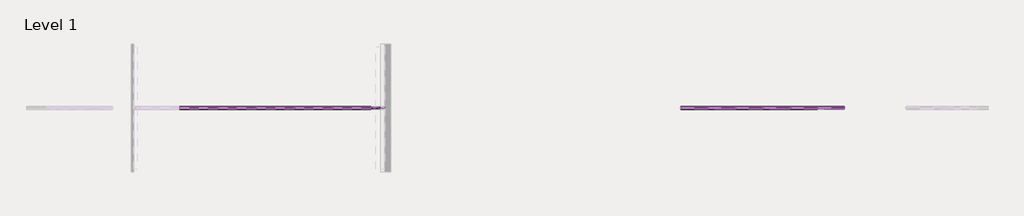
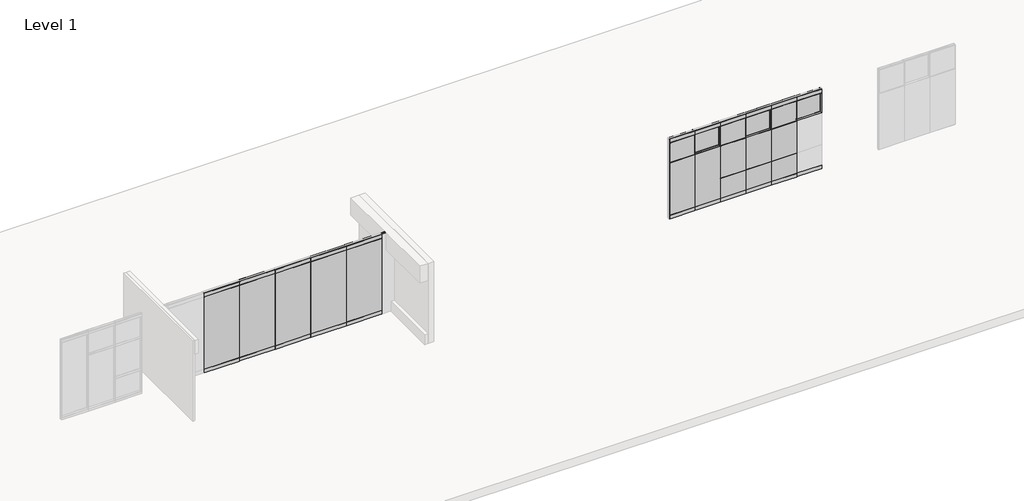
# One storey, part 13 of 22: 110 proxies.
"""IFC4 building model written with IfcOpenShell, lengths in millimetres."""

from ifc_helpers import new_model, si_unit, origin, place, context, project, spatial, transform, mapped, element, save
from components import fkc_e36d1c91, fkn_ecde4ead, fascia_teknion_ceiling_and_base_fpb1_f6fada93, fascia_teknion_ceiling_and_base_fpb1_13b4bfed, fascia_teknion_ceiling_and_base_fpb1_0bfeef01, fascia_teknion_ceiling_and_base_fpb1_b9f04170, fascia_teknion_ceiling_and_base_fpb1_707b8d37, fascia_teknion_ceiling_and_base_fpb1_816009f4, frame_teknion_horizontal_rail_5872ae1a, frame_teknion_horizontal_rail_46ee653b, frame_teknion_horizontal_rail_96f289ab, frame_teknion_horizontal_rail_2bcae702, full_84ced3e5, full_de6f7fca, glass_fascia_921fc641, glass_fascia_0a4ee349, glass_fascia_7fd7f416, glass_fascia_c5390191, working_wall_monolithic_level_i_0b7852cd, working_wall_monolithic_level_i_72bc8cad, working_wall_monolithic_level_i_0fd3c68e, level_ii_09c6d2e8, level_ii_d745e7d9, level_ii_52e50c64, segmented_monolithic_level_i_1ec0774b, segmented_monolithic_level_i_c740ac9f, segmented_monolithic_level_i_f7c86621, segmented_monolithic_level_i_c631dfd0

model = new_model("IFC4")

# Units and contexts
model_context = context("Model", 3, world=origin())
ifc_project = project(units=[si_unit("LENGTHUNIT", "METRE", prefix="MILLI")], contexts=[model_context])

# Site, building, storey
site = spatial("IfcSite", under=ifc_project)
building = spatial("IfcBuilding", under=site)
storey = spatial("IfcBuildingStorey", under=building, Name="Level 1", Elevation=0.0)

# Proxies
placement = place(None, origin())
fkc_shape = fkc_e36d1c91(model_context)
element("IfcBuildingElementProxy", 1, Name="Frame-Teknion-Altos-Base_Channel : FKC", ObjectType="Frame-Teknion-Altos-Base_Channel : FKC", at=placement, inside=storey, context=model_context, shape_type="MappedRepresentation", body=[
    mapped(fkc_shape, transform((11261.4815098, 1812.351065, 0.0), x_axis=(1.0, 0.0, 0.0), y_axis=(0.0, 1.0, 0.0), z_axis=(0.0, 0.0, 1.0))),
])
fkn_shape = fkn_ecde4ead(model_context)
element("IfcBuildingElementProxy", 2, Name="Frame-Teknion-Altos-Ceiling_Channel : FKN", ObjectType="Frame-Teknion-Altos-Ceiling_Channel : FKN", at=placement, inside=storey, context=model_context, shape_type="MappedRepresentation", body=[
    mapped(fkn_shape, transform((11172.5815098, 1812.351065, 3048.0), x_axis=(1.0, 0.0, 0.0), y_axis=(0.0, 1.0, 0.0), z_axis=(0.0, 0.0, 1.0))),
])
fascia_teknion_ceiling_and_base_fpb1_shape = fascia_teknion_ceiling_and_base_fpb1_f6fada93(model_context)
element("IfcBuildingElementProxy", 3, Name="Fascia-Teknion-Ceiling_and_Base : FPB1", ObjectType="Fascia-Teknion-Ceiling_and_Base : FPB1", at=placement, inside=storey, context=model_context, shape_type="MappedRepresentation", body=[
    mapped(fascia_teknion_ceiling_and_base_fpb1_shape, transform((5345.8115879, 1843.3402105, 15.875), x_axis=(1.0, 0.0, 0.0), y_axis=(0.0, 1.0, 0.0), z_axis=(0.0, 0.0, 1.0))),
])
element("IfcBuildingElementProxy", 4, Name="Fascia-Teknion-Ceiling_and_Base : FPB1", ObjectType="Fascia-Teknion-Ceiling_and_Base : FPB1", at=placement, inside=storey, context=model_context, shape_type="MappedRepresentation", body=[
    mapped(fascia_teknion_ceiling_and_base_fpb1_shape, transform((6622.1615879, 1843.3402105, 15.875), x_axis=(1.0, 0.0, 0.0), y_axis=(0.0, 1.0, 0.0), z_axis=(0.0, 0.0, 1.0))),
])
element("IfcBuildingElementProxy", 5, Name="Fascia-Teknion-Ceiling_and_Base : FPB1", ObjectType="Fascia-Teknion-Ceiling_and_Base : FPB1", at=placement, inside=storey, context=model_context, shape_type="MappedRepresentation", body=[
    mapped(fascia_teknion_ceiling_and_base_fpb1_shape, transform((7898.5115879, 1843.3402105, 15.875), x_axis=(1.0, 0.0, 0.0), y_axis=(0.0, 1.0, 0.0), z_axis=(0.0, 0.0, 1.0))),
])
element("IfcBuildingElementProxy", 6, Name="Fascia-Teknion-Ceiling_and_Base : FPB1", ObjectType="Fascia-Teknion-Ceiling_and_Base : FPB1", at=placement, inside=storey, context=model_context, shape_type="MappedRepresentation", body=[
    mapped(fascia_teknion_ceiling_and_base_fpb1_shape, transform((9174.8615879, 1843.3402105, 15.875), x_axis=(1.0, 0.0, 0.0), y_axis=(0.0, 1.0, 0.0), z_axis=(0.0, 0.0, 1.0))),
])
element("IfcBuildingElementProxy", 7, Name="Fascia-Teknion-Ceiling_and_Base : FPB1", ObjectType="Fascia-Teknion-Ceiling_and_Base : FPB1", at=placement, inside=storey, context=model_context, shape_type="MappedRepresentation", body=[
    mapped(fascia_teknion_ceiling_and_base_fpb1_shape, transform((10451.2115879, 1843.3402105, 15.875), x_axis=(1.0, 0.0, 0.0), y_axis=(0.0, 1.0, 0.0), z_axis=(0.0, 0.0, 1.0))),
])
fascia_teknion_ceiling_and_base_fpb1_2_shape = fascia_teknion_ceiling_and_base_fpb1_13b4bfed(model_context)
element("IfcBuildingElementProxy", 8, Name="Fascia-Teknion-Ceiling_and_Base : FPB1", ObjectType="Fascia-Teknion-Ceiling_and_Base : FPB1", at=placement, inside=storey, context=model_context, shape_type="MappedRepresentation", body=[
    mapped(fascia_teknion_ceiling_and_base_fpb1_2_shape, transform((5345.8115879, 1781.3642105, 15.875), x_axis=(1.0, 0.0, 0.0), y_axis=(0.0, 1.0, 0.0), z_axis=(0.0, 0.0, 1.0))),
])
element("IfcBuildingElementProxy", 9, Name="Fascia-Teknion-Ceiling_and_Base : FPB1", ObjectType="Fascia-Teknion-Ceiling_and_Base : FPB1", at=placement, inside=storey, context=model_context, shape_type="MappedRepresentation", body=[
    mapped(fascia_teknion_ceiling_and_base_fpb1_2_shape, transform((6622.1615879, 1781.3642105, 15.875), x_axis=(1.0, 0.0, 0.0), y_axis=(0.0, 1.0, 0.0), z_axis=(0.0, 0.0, 1.0))),
])
element("IfcBuildingElementProxy", 10, Name="Fascia-Teknion-Ceiling_and_Base : FPB1", ObjectType="Fascia-Teknion-Ceiling_and_Base : FPB1", at=placement, inside=storey, context=model_context, shape_type="MappedRepresentation", body=[
    mapped(fascia_teknion_ceiling_and_base_fpb1_2_shape, transform((7898.5115879, 1781.3642105, 15.875), x_axis=(1.0, 0.0, 0.0), y_axis=(0.0, 1.0, 0.0), z_axis=(0.0, 0.0, 1.0))),
])
element("IfcBuildingElementProxy", 11, Name="Fascia-Teknion-Ceiling_and_Base : FPB1", ObjectType="Fascia-Teknion-Ceiling_and_Base : FPB1", at=placement, inside=storey, context=model_context, shape_type="MappedRepresentation", body=[
    mapped(fascia_teknion_ceiling_and_base_fpb1_2_shape, transform((9174.8615879, 1781.3642105, 15.875), x_axis=(1.0, 0.0, 0.0), y_axis=(0.0, 1.0, 0.0), z_axis=(0.0, 0.0, 1.0))),
])
element("IfcBuildingElementProxy", 12, Name="Fascia-Teknion-Ceiling_and_Base : FPB1", ObjectType="Fascia-Teknion-Ceiling_and_Base : FPB1", at=placement, inside=storey, context=model_context, shape_type="MappedRepresentation", body=[
    mapped(fascia_teknion_ceiling_and_base_fpb1_2_shape, transform((10451.2115879, 1781.3642105, 15.875), x_axis=(1.0, 0.0, 0.0), y_axis=(0.0, 1.0, 0.0), z_axis=(0.0, 0.0, 1.0))),
])
fascia_teknion_ceiling_and_base_fpb1_3_shape = fascia_teknion_ceiling_and_base_fpb1_0bfeef01(model_context)
element("IfcBuildingElementProxy", 13, Name="Fascia-Teknion-Ceiling_and_Base : FPB1", ObjectType="Fascia-Teknion-Ceiling_and_Base : FPB1", at=placement, inside=storey, context=model_context, shape_type="MappedRepresentation", body=[
    mapped(fascia_teknion_ceiling_and_base_fpb1_3_shape, transform((21863.3908134, 1843.3402105, 15.875), x_axis=(1.0, 0.0, 0.0), y_axis=(0.0, 1.0, 0.0), z_axis=(0.0, 0.0, 1.0))),
])
element("IfcBuildingElementProxy", 14, Name="Fascia-Teknion-Ceiling_and_Base : FPB1", ObjectType="Fascia-Teknion-Ceiling_and_Base : FPB1", at=placement, inside=storey, context=model_context, shape_type="MappedRepresentation", body=[
    mapped(fascia_teknion_ceiling_and_base_fpb1_3_shape, transform((26421.4009696, 1843.3402105, 15.875), x_axis=(1.0, 0.0, 0.0), y_axis=(0.0, 1.0, 0.0), z_axis=(0.0, 0.0, 1.0))),
])
fascia_teknion_ceiling_and_base_fpb1_4_shape = fascia_teknion_ceiling_and_base_fpb1_b9f04170(model_context)
element("IfcBuildingElementProxy", 15, Name="Fascia-Teknion-Ceiling_and_Base : FPB1", ObjectType="Fascia-Teknion-Ceiling_and_Base : FPB1", at=placement, inside=storey, context=model_context, shape_type="MappedRepresentation", body=[
    mapped(fascia_teknion_ceiling_and_base_fpb1_4_shape, transform((21863.3908134, 1781.3642105, 15.875), x_axis=(1.0, 0.0, 0.0), y_axis=(0.0, 1.0, 0.0), z_axis=(0.0, 0.0, 1.0))),
])
element("IfcBuildingElementProxy", 16, Name="Fascia-Teknion-Ceiling_and_Base : FPB1", ObjectType="Fascia-Teknion-Ceiling_and_Base : FPB1", at=placement, inside=storey, context=model_context, shape_type="MappedRepresentation", body=[
    mapped(fascia_teknion_ceiling_and_base_fpb1_4_shape, transform((26421.4009696, 1781.3642105, 15.875), x_axis=(1.0, 0.0, 0.0), y_axis=(0.0, 1.0, 0.0), z_axis=(0.0, 0.0, 1.0))),
])
fascia_teknion_ceiling_and_base_fpb1_5_shape = fascia_teknion_ceiling_and_base_fpb1_707b8d37(model_context)
element("IfcBuildingElementProxy", 17, Name="Fascia-Teknion-Ceiling_and_Base : FPB1", ObjectType="Fascia-Teknion-Ceiling_and_Base : FPB1", at=placement, inside=storey, context=model_context, shape_type="MappedRepresentation", body=[
    mapped(fascia_teknion_ceiling_and_base_fpb1_5_shape, transform((24599.5958915, 1781.3642105, 15.875), x_axis=(1.0, 0.0, 0.0), y_axis=(0.0, 1.0, 0.0), z_axis=(0.0, 0.0, 1.0))),
])
element("IfcBuildingElementProxy", 18, Name="Fascia-Teknion-Ceiling_and_Base : FPB1", ObjectType="Fascia-Teknion-Ceiling_and_Base : FPB1", at=placement, inside=storey, context=model_context, shape_type="MappedRepresentation", body=[
    mapped(fascia_teknion_ceiling_and_base_fpb1_5_shape, transform((23685.1958915, 1781.3642105, 15.875), x_axis=(1.0, 0.0, 0.0), y_axis=(0.0, 1.0, 0.0), z_axis=(0.0, 0.0, 1.0))),
])
element("IfcBuildingElementProxy", 19, Name="Fascia-Teknion-Ceiling_and_Base : FPB1", ObjectType="Fascia-Teknion-Ceiling_and_Base : FPB1", at=placement, inside=storey, context=model_context, shape_type="MappedRepresentation", body=[
    mapped(fascia_teknion_ceiling_and_base_fpb1_5_shape, transform((22770.7958915, 1781.3642105, 15.875), x_axis=(1.0, 0.0, 0.0), y_axis=(0.0, 1.0, 0.0), z_axis=(0.0, 0.0, 1.0))),
])
element("IfcBuildingElementProxy", 20, Name="Fascia-Teknion-Ceiling_and_Base : FPB1", ObjectType="Fascia-Teknion-Ceiling_and_Base : FPB1", at=placement, inside=storey, context=model_context, shape_type="MappedRepresentation", body=[
    mapped(fascia_teknion_ceiling_and_base_fpb1_5_shape, transform((25513.9958915, 1781.3642105, 15.875), x_axis=(1.0, 0.0, 0.0), y_axis=(0.0, 1.0, 0.0), z_axis=(0.0, 0.0, 1.0))),
])
fascia_teknion_ceiling_and_base_fpb1_6_shape = fascia_teknion_ceiling_and_base_fpb1_816009f4(model_context)
element("IfcBuildingElementProxy", 21, Name="Fascia-Teknion-Ceiling_and_Base : FPB1", ObjectType="Fascia-Teknion-Ceiling_and_Base : FPB1", at=placement, inside=storey, context=model_context, shape_type="MappedRepresentation", body=[
    mapped(fascia_teknion_ceiling_and_base_fpb1_6_shape, transform((24599.5958915, 1843.3402105, 15.875), x_axis=(1.0, 0.0, 0.0), y_axis=(0.0, 1.0, 0.0), z_axis=(0.0, 0.0, 1.0))),
])
element("IfcBuildingElementProxy", 22, Name="Fascia-Teknion-Ceiling_and_Base : FPB1", ObjectType="Fascia-Teknion-Ceiling_and_Base : FPB1", at=placement, inside=storey, context=model_context, shape_type="MappedRepresentation", body=[
    mapped(fascia_teknion_ceiling_and_base_fpb1_6_shape, transform((23685.1958915, 1843.3402105, 15.875), x_axis=(1.0, 0.0, 0.0), y_axis=(0.0, 1.0, 0.0), z_axis=(0.0, 0.0, 1.0))),
])
element("IfcBuildingElementProxy", 23, Name="Fascia-Teknion-Ceiling_and_Base : FPB1", ObjectType="Fascia-Teknion-Ceiling_and_Base : FPB1", at=placement, inside=storey, context=model_context, shape_type="MappedRepresentation", body=[
    mapped(fascia_teknion_ceiling_and_base_fpb1_6_shape, transform((22770.7958915, 1843.3402105, 15.875), x_axis=(1.0, 0.0, 0.0), y_axis=(0.0, 1.0, 0.0), z_axis=(0.0, 0.0, 1.0))),
])
element("IfcBuildingElementProxy", 24, Name="Fascia-Teknion-Ceiling_and_Base : FPB1", ObjectType="Fascia-Teknion-Ceiling_and_Base : FPB1", at=placement, inside=storey, context=model_context, shape_type="MappedRepresentation", body=[
    mapped(fascia_teknion_ceiling_and_base_fpb1_6_shape, transform((25513.9958915, 1843.3402105, 15.875), x_axis=(1.0, 0.0, 0.0), y_axis=(0.0, 1.0, 0.0), z_axis=(0.0, 0.0, 1.0))),
])
element("IfcBuildingElementProxy", 25, Name="Fascia-Teknion-Ceiling_and_Base : FPC", ObjectType="Fascia-Teknion-Ceiling_and_Base : FPC", at=placement, inside=storey, context=model_context, shape_type="MappedRepresentation", body=[
    mapped(fascia_teknion_ceiling_and_base_fpb1_shape, transform((5345.8115879, 1843.3402105, 2900.045), x_axis=(1.0, 0.0, 0.0), y_axis=(0.0, 1.0, 0.0), z_axis=(0.0, 0.0, 1.0))),
])
element("IfcBuildingElementProxy", 26, Name="Fascia-Teknion-Ceiling_and_Base : FPC", ObjectType="Fascia-Teknion-Ceiling_and_Base : FPC", at=placement, inside=storey, context=model_context, shape_type="MappedRepresentation", body=[
    mapped(fascia_teknion_ceiling_and_base_fpb1_shape, transform((6622.1615879, 1843.3402105, 2900.045), x_axis=(1.0, 0.0, 0.0), y_axis=(0.0, 1.0, 0.0), z_axis=(0.0, 0.0, 1.0))),
])
element("IfcBuildingElementProxy", 27, Name="Fascia-Teknion-Ceiling_and_Base : FPC", ObjectType="Fascia-Teknion-Ceiling_and_Base : FPC", at=placement, inside=storey, context=model_context, shape_type="MappedRepresentation", body=[
    mapped(fascia_teknion_ceiling_and_base_fpb1_shape, transform((7898.5115879, 1843.3402105, 2900.045), x_axis=(1.0, 0.0, 0.0), y_axis=(0.0, 1.0, 0.0), z_axis=(0.0, 0.0, 1.0))),
])
element("IfcBuildingElementProxy", 28, Name="Fascia-Teknion-Ceiling_and_Base : FPC", ObjectType="Fascia-Teknion-Ceiling_and_Base : FPC", at=placement, inside=storey, context=model_context, shape_type="MappedRepresentation", body=[
    mapped(fascia_teknion_ceiling_and_base_fpb1_shape, transform((9174.8615879, 1843.3402105, 2900.045), x_axis=(1.0, 0.0, 0.0), y_axis=(0.0, 1.0, 0.0), z_axis=(0.0, 0.0, 1.0))),
])
element("IfcBuildingElementProxy", 29, Name="Fascia-Teknion-Ceiling_and_Base : FPC", ObjectType="Fascia-Teknion-Ceiling_and_Base : FPC", at=placement, inside=storey, context=model_context, shape_type="MappedRepresentation", body=[
    mapped(fascia_teknion_ceiling_and_base_fpb1_shape, transform((10451.2115879, 1843.3402105, 2900.045), x_axis=(1.0, 0.0, 0.0), y_axis=(0.0, 1.0, 0.0), z_axis=(0.0, 0.0, 1.0))),
])
element("IfcBuildingElementProxy", 30, Name="Fascia-Teknion-Ceiling_and_Base : FPC", ObjectType="Fascia-Teknion-Ceiling_and_Base : FPC", at=placement, inside=storey, context=model_context, shape_type="MappedRepresentation", body=[
    mapped(fascia_teknion_ceiling_and_base_fpb1_2_shape, transform((5345.8115879, 1781.3642105, 2900.045), x_axis=(1.0, 0.0, 0.0), y_axis=(0.0, 1.0, 0.0), z_axis=(0.0, 0.0, 1.0))),
])
element("IfcBuildingElementProxy", 31, Name="Fascia-Teknion-Ceiling_and_Base : FPC", ObjectType="Fascia-Teknion-Ceiling_and_Base : FPC", at=placement, inside=storey, context=model_context, shape_type="MappedRepresentation", body=[
    mapped(fascia_teknion_ceiling_and_base_fpb1_2_shape, transform((6622.1615879, 1781.3642105, 2900.045), x_axis=(1.0, 0.0, 0.0), y_axis=(0.0, 1.0, 0.0), z_axis=(0.0, 0.0, 1.0))),
])
element("IfcBuildingElementProxy", 32, Name="Fascia-Teknion-Ceiling_and_Base : FPC", ObjectType="Fascia-Teknion-Ceiling_and_Base : FPC", at=placement, inside=storey, context=model_context, shape_type="MappedRepresentation", body=[
    mapped(fascia_teknion_ceiling_and_base_fpb1_2_shape, transform((7898.5115879, 1781.3642105, 2900.045), x_axis=(1.0, 0.0, 0.0), y_axis=(0.0, 1.0, 0.0), z_axis=(0.0, 0.0, 1.0))),
])
element("IfcBuildingElementProxy", 33, Name="Fascia-Teknion-Ceiling_and_Base : FPC", ObjectType="Fascia-Teknion-Ceiling_and_Base : FPC", at=placement, inside=storey, context=model_context, shape_type="MappedRepresentation", body=[
    mapped(fascia_teknion_ceiling_and_base_fpb1_2_shape, transform((9174.8615879, 1781.3642105, 2900.045), x_axis=(1.0, 0.0, 0.0), y_axis=(0.0, 1.0, 0.0), z_axis=(0.0, 0.0, 1.0))),
])
element("IfcBuildingElementProxy", 34, Name="Fascia-Teknion-Ceiling_and_Base : FPC", ObjectType="Fascia-Teknion-Ceiling_and_Base : FPC", at=placement, inside=storey, context=model_context, shape_type="MappedRepresentation", body=[
    mapped(fascia_teknion_ceiling_and_base_fpb1_2_shape, transform((10451.2115879, 1781.3642105, 2900.045), x_axis=(1.0, 0.0, 0.0), y_axis=(0.0, 1.0, 0.0), z_axis=(0.0, 0.0, 1.0))),
])
element("IfcBuildingElementProxy", 35, Name="Fascia-Teknion-Ceiling_and_Base : FPC", ObjectType="Fascia-Teknion-Ceiling_and_Base : FPC", at=placement, inside=storey, context=model_context, shape_type="MappedRepresentation", body=[
    mapped(fascia_teknion_ceiling_and_base_fpb1_4_shape, transform((21863.3908134, 1781.3642105, 2900.045), x_axis=(1.0, 0.0, 0.0), y_axis=(0.0, 1.0, 0.0), z_axis=(0.0, 0.0, 1.0))),
])
element("IfcBuildingElementProxy", 36, Name="Fascia-Teknion-Ceiling_and_Base : FPC", ObjectType="Fascia-Teknion-Ceiling_and_Base : FPC", at=placement, inside=storey, context=model_context, shape_type="MappedRepresentation", body=[
    mapped(fascia_teknion_ceiling_and_base_fpb1_4_shape, transform((26421.4009696, 1781.3642105, 2900.045), x_axis=(1.0, 0.0, 0.0), y_axis=(0.0, 1.0, 0.0), z_axis=(0.0, 0.0, 1.0))),
])
element("IfcBuildingElementProxy", 37, Name="Fascia-Teknion-Ceiling_and_Base : FPC", ObjectType="Fascia-Teknion-Ceiling_and_Base : FPC", at=placement, inside=storey, context=model_context, shape_type="MappedRepresentation", body=[
    mapped(fascia_teknion_ceiling_and_base_fpb1_3_shape, transform((21863.3908134, 1843.3402105, 2900.045), x_axis=(1.0, 0.0, 0.0), y_axis=(0.0, 1.0, 0.0), z_axis=(0.0, 0.0, 1.0))),
])
element("IfcBuildingElementProxy", 38, Name="Fascia-Teknion-Ceiling_and_Base : FPC", ObjectType="Fascia-Teknion-Ceiling_and_Base : FPC", at=placement, inside=storey, context=model_context, shape_type="MappedRepresentation", body=[
    mapped(fascia_teknion_ceiling_and_base_fpb1_3_shape, transform((26421.4009696, 1843.3402105, 2900.045), x_axis=(1.0, 0.0, 0.0), y_axis=(0.0, 1.0, 0.0), z_axis=(0.0, 0.0, 1.0))),
])
element("IfcBuildingElementProxy", 39, Name="Fascia-Teknion-Ceiling_and_Base : FPC", ObjectType="Fascia-Teknion-Ceiling_and_Base : FPC", at=placement, inside=storey, context=model_context, shape_type="MappedRepresentation", body=[
    mapped(fascia_teknion_ceiling_and_base_fpb1_5_shape, transform((24599.5958915, 1781.3642105, 2900.045), x_axis=(1.0, 0.0, 0.0), y_axis=(0.0, 1.0, 0.0), z_axis=(0.0, 0.0, 1.0))),
])
element("IfcBuildingElementProxy", 40, Name="Fascia-Teknion-Ceiling_and_Base : FPC", ObjectType="Fascia-Teknion-Ceiling_and_Base : FPC", at=placement, inside=storey, context=model_context, shape_type="MappedRepresentation", body=[
    mapped(fascia_teknion_ceiling_and_base_fpb1_5_shape, transform((23685.1958915, 1781.3642105, 2900.045), x_axis=(1.0, 0.0, 0.0), y_axis=(0.0, 1.0, 0.0), z_axis=(0.0, 0.0, 1.0))),
])
element("IfcBuildingElementProxy", 41, Name="Fascia-Teknion-Ceiling_and_Base : FPC", ObjectType="Fascia-Teknion-Ceiling_and_Base : FPC", at=placement, inside=storey, context=model_context, shape_type="MappedRepresentation", body=[
    mapped(fascia_teknion_ceiling_and_base_fpb1_5_shape, transform((22770.7958915, 1781.3642105, 2900.045), x_axis=(1.0, 0.0, 0.0), y_axis=(0.0, 1.0, 0.0), z_axis=(0.0, 0.0, 1.0))),
])
element("IfcBuildingElementProxy", 42, Name="Fascia-Teknion-Ceiling_and_Base : FPC", ObjectType="Fascia-Teknion-Ceiling_and_Base : FPC", at=placement, inside=storey, context=model_context, shape_type="MappedRepresentation", body=[
    mapped(fascia_teknion_ceiling_and_base_fpb1_5_shape, transform((25513.9958915, 1781.3642105, 2900.045), x_axis=(1.0, 0.0, 0.0), y_axis=(0.0, 1.0, 0.0), z_axis=(0.0, 0.0, 1.0))),
])
element("IfcBuildingElementProxy", 43, Name="Fascia-Teknion-Ceiling_and_Base : FPC", ObjectType="Fascia-Teknion-Ceiling_and_Base : FPC", at=placement, inside=storey, context=model_context, shape_type="MappedRepresentation", body=[
    mapped(fascia_teknion_ceiling_and_base_fpb1_6_shape, transform((24599.5958915, 1843.3402105, 2900.045), x_axis=(1.0, 0.0, 0.0), y_axis=(0.0, 1.0, 0.0), z_axis=(0.0, 0.0, 1.0))),
])
element("IfcBuildingElementProxy", 44, Name="Fascia-Teknion-Ceiling_and_Base : FPC", ObjectType="Fascia-Teknion-Ceiling_and_Base : FPC", at=placement, inside=storey, context=model_context, shape_type="MappedRepresentation", body=[
    mapped(fascia_teknion_ceiling_and_base_fpb1_6_shape, transform((23685.1958915, 1843.3402105, 2900.045), x_axis=(1.0, 0.0, 0.0), y_axis=(0.0, 1.0, 0.0), z_axis=(0.0, 0.0, 1.0))),
])
element("IfcBuildingElementProxy", 45, Name="Fascia-Teknion-Ceiling_and_Base : FPC", ObjectType="Fascia-Teknion-Ceiling_and_Base : FPC", at=placement, inside=storey, context=model_context, shape_type="MappedRepresentation", body=[
    mapped(fascia_teknion_ceiling_and_base_fpb1_6_shape, transform((22770.7958915, 1843.3402105, 2900.045), x_axis=(1.0, 0.0, 0.0), y_axis=(0.0, 1.0, 0.0), z_axis=(0.0, 0.0, 1.0))),
])
element("IfcBuildingElementProxy", 46, Name="Fascia-Teknion-Ceiling_and_Base : FPC", ObjectType="Fascia-Teknion-Ceiling_and_Base : FPC", at=placement, inside=storey, context=model_context, shape_type="MappedRepresentation", body=[
    mapped(fascia_teknion_ceiling_and_base_fpb1_6_shape, transform((25513.9958915, 1843.3402105, 2900.045), x_axis=(1.0, 0.0, 0.0), y_axis=(0.0, 1.0, 0.0), z_axis=(0.0, 0.0, 1.0))),
])
frame_teknion_horizontal_rail_shape = frame_teknion_horizontal_rail_5872ae1a(model_context)
element("IfcBuildingElementProxy", 47, Name="Frame-Teknion-Horizontal_Rail : FPKK", ObjectType="Frame-Teknion-Horizontal_Rail : FPKK", at=placement, inside=storey, context=model_context, shape_type="MappedRepresentation", body=[
    mapped(frame_teknion_horizontal_rail_shape, transform((21863.3908134, 1812.3522105, 2136.775), x_axis=(1.0, 0.0, 0.0), y_axis=(0.0, 1.0, 0.0), z_axis=(0.0, 0.0, 1.0))),
])
element("IfcBuildingElementProxy", 48, Name="Frame-Teknion-Horizontal_Rail : FPKK", ObjectType="Frame-Teknion-Horizontal_Rail : FPKK", at=placement, inside=storey, context=model_context, shape_type="MappedRepresentation", body=[
    mapped(frame_teknion_horizontal_rail_shape, transform((21863.3908134, 1812.3522105, 151.257), x_axis=(1.0, 0.0, 0.0), y_axis=(0.0, 1.0, 0.0), z_axis=(0.0, 0.0, 1.0))),
])
element("IfcBuildingElementProxy", 49, Name="Frame-Teknion-Horizontal_Rail : FPKK", ObjectType="Frame-Teknion-Horizontal_Rail : FPKK", at=placement, inside=storey, context=model_context, shape_type="MappedRepresentation", body=[
    mapped(frame_teknion_horizontal_rail_shape, transform((21863.3908134, 1812.3522105, 2896.743), x_axis=(1.0, 0.0, 0.0), y_axis=(0.0, 1.0, 0.0), z_axis=(0.0, 0.0, 1.0))),
])
element("IfcBuildingElementProxy", 50, Name="Frame-Teknion-Horizontal_Rail : FPKK", ObjectType="Frame-Teknion-Horizontal_Rail : FPKK", at=placement, inside=storey, context=model_context, shape_type="MappedRepresentation", body=[
    mapped(frame_teknion_horizontal_rail_shape, transform((26421.4009696, 1812.3522105, 917.575), x_axis=(1.0, 0.0, 0.0), y_axis=(0.0, 1.0, 0.0), z_axis=(0.0, 0.0, 1.0))),
])
element("IfcBuildingElementProxy", 51, Name="Frame-Teknion-Horizontal_Rail : FPKK", ObjectType="Frame-Teknion-Horizontal_Rail : FPKK", at=placement, inside=storey, context=model_context, shape_type="MappedRepresentation", body=[
    mapped(frame_teknion_horizontal_rail_shape, transform((26421.4009696, 1812.3522105, 2136.775), x_axis=(1.0, 0.0, 0.0), y_axis=(0.0, 1.0, 0.0), z_axis=(0.0, 0.0, 1.0))),
])
element("IfcBuildingElementProxy", 52, Name="Frame-Teknion-Horizontal_Rail : FPKK", ObjectType="Frame-Teknion-Horizontal_Rail : FPKK", at=placement, inside=storey, context=model_context, shape_type="MappedRepresentation", body=[
    mapped(frame_teknion_horizontal_rail_shape, transform((26421.4009696, 1812.3522105, 151.257), x_axis=(1.0, 0.0, 0.0), y_axis=(0.0, 1.0, 0.0), z_axis=(0.0, 0.0, 1.0))),
])
element("IfcBuildingElementProxy", 53, Name="Frame-Teknion-Horizontal_Rail : FPKK", ObjectType="Frame-Teknion-Horizontal_Rail : FPKK", at=placement, inside=storey, context=model_context, shape_type="MappedRepresentation", body=[
    mapped(frame_teknion_horizontal_rail_shape, transform((26421.4009696, 1812.3522105, 2896.743), x_axis=(1.0, 0.0, 0.0), y_axis=(0.0, 1.0, 0.0), z_axis=(0.0, 0.0, 1.0))),
])
frame_teknion_horizontal_rail_2_shape = frame_teknion_horizontal_rail_46ee653b(model_context)
element("IfcBuildingElementProxy", 54, Name="Frame-Teknion-Horizontal_Rail : FPKK", ObjectType="Frame-Teknion-Horizontal_Rail : FPKK", at=placement, inside=storey, context=model_context, shape_type="MappedRepresentation", body=[
    mapped(frame_teknion_horizontal_rail_2_shape, transform((24599.5958915, 1812.3522105, 2136.775), x_axis=(1.0, 0.0, 0.0), y_axis=(0.0, 1.0, 0.0), z_axis=(0.0, 0.0, 1.0))),
])
element("IfcBuildingElementProxy", 55, Name="Frame-Teknion-Horizontal_Rail : FPKK", ObjectType="Frame-Teknion-Horizontal_Rail : FPKK", at=placement, inside=storey, context=model_context, shape_type="MappedRepresentation", body=[
    mapped(frame_teknion_horizontal_rail_2_shape, transform((24599.5958915, 1812.3522105, 151.257), x_axis=(1.0, 0.0, 0.0), y_axis=(0.0, 1.0, 0.0), z_axis=(0.0, 0.0, 1.0))),
])
element("IfcBuildingElementProxy", 56, Name="Frame-Teknion-Horizontal_Rail : FPKK", ObjectType="Frame-Teknion-Horizontal_Rail : FPKK", at=placement, inside=storey, context=model_context, shape_type="MappedRepresentation", body=[
    mapped(frame_teknion_horizontal_rail_2_shape, transform((24599.5958915, 1812.3522105, 2896.743), x_axis=(1.0, 0.0, 0.0), y_axis=(0.0, 1.0, 0.0), z_axis=(0.0, 0.0, 1.0))),
])
element("IfcBuildingElementProxy", 57, Name="Frame-Teknion-Horizontal_Rail : FPKK", ObjectType="Frame-Teknion-Horizontal_Rail : FPKK", at=placement, inside=storey, context=model_context, shape_type="MappedRepresentation", body=[
    mapped(frame_teknion_horizontal_rail_2_shape, transform((23685.1958915, 1812.3522105, 2136.775), x_axis=(1.0, 0.0, 0.0), y_axis=(0.0, 1.0, 0.0), z_axis=(0.0, 0.0, 1.0))),
])
element("IfcBuildingElementProxy", 58, Name="Frame-Teknion-Horizontal_Rail : FPKK", ObjectType="Frame-Teknion-Horizontal_Rail : FPKK", at=placement, inside=storey, context=model_context, shape_type="MappedRepresentation", body=[
    mapped(frame_teknion_horizontal_rail_2_shape, transform((23685.1958915, 1812.3522105, 151.257), x_axis=(1.0, 0.0, 0.0), y_axis=(0.0, 1.0, 0.0), z_axis=(0.0, 0.0, 1.0))),
])
element("IfcBuildingElementProxy", 59, Name="Frame-Teknion-Horizontal_Rail : FPKK", ObjectType="Frame-Teknion-Horizontal_Rail : FPKK", at=placement, inside=storey, context=model_context, shape_type="MappedRepresentation", body=[
    mapped(frame_teknion_horizontal_rail_2_shape, transform((23685.1958915, 1812.3522105, 2896.743), x_axis=(1.0, 0.0, 0.0), y_axis=(0.0, 1.0, 0.0), z_axis=(0.0, 0.0, 1.0))),
])
element("IfcBuildingElementProxy", 60, Name="Frame-Teknion-Horizontal_Rail : FPKK", ObjectType="Frame-Teknion-Horizontal_Rail : FPKK", at=placement, inside=storey, context=model_context, shape_type="MappedRepresentation", body=[
    mapped(frame_teknion_horizontal_rail_2_shape, transform((23685.1958915, 1812.3522105, 917.575), x_axis=(1.0, 0.0, 0.0), y_axis=(0.0, 1.0, 0.0), z_axis=(0.0, 0.0, 1.0))),
])
element("IfcBuildingElementProxy", 61, Name="Frame-Teknion-Horizontal_Rail : FPKK", ObjectType="Frame-Teknion-Horizontal_Rail : FPKK", at=placement, inside=storey, context=model_context, shape_type="MappedRepresentation", body=[
    mapped(frame_teknion_horizontal_rail_2_shape, transform((24599.5958915, 1812.3522105, 917.575), x_axis=(1.0, 0.0, 0.0), y_axis=(0.0, 1.0, 0.0), z_axis=(0.0, 0.0, 1.0))),
])
element("IfcBuildingElementProxy", 62, Name="Frame-Teknion-Horizontal_Rail : FPKK", ObjectType="Frame-Teknion-Horizontal_Rail : FPKK", at=placement, inside=storey, context=model_context, shape_type="MappedRepresentation", body=[
    mapped(frame_teknion_horizontal_rail_2_shape, transform((22770.7958915, 1812.3522105, 2136.775), x_axis=(1.0, 0.0, 0.0), y_axis=(0.0, 1.0, 0.0), z_axis=(0.0, 0.0, 1.0))),
])
element("IfcBuildingElementProxy", 63, Name="Frame-Teknion-Horizontal_Rail : FPKK", ObjectType="Frame-Teknion-Horizontal_Rail : FPKK", at=placement, inside=storey, context=model_context, shape_type="MappedRepresentation", body=[
    mapped(frame_teknion_horizontal_rail_2_shape, transform((22770.7958915, 1812.3522105, 151.257), x_axis=(1.0, 0.0, 0.0), y_axis=(0.0, 1.0, 0.0), z_axis=(0.0, 0.0, 1.0))),
])
element("IfcBuildingElementProxy", 64, Name="Frame-Teknion-Horizontal_Rail : FPKK", ObjectType="Frame-Teknion-Horizontal_Rail : FPKK", at=placement, inside=storey, context=model_context, shape_type="MappedRepresentation", body=[
    mapped(frame_teknion_horizontal_rail_2_shape, transform((22770.7958915, 1812.3522105, 2896.743), x_axis=(1.0, 0.0, 0.0), y_axis=(0.0, 1.0, 0.0), z_axis=(0.0, 0.0, 1.0))),
])
element("IfcBuildingElementProxy", 65, Name="Frame-Teknion-Horizontal_Rail : FPKK", ObjectType="Frame-Teknion-Horizontal_Rail : FPKK", at=placement, inside=storey, context=model_context, shape_type="MappedRepresentation", body=[
    mapped(frame_teknion_horizontal_rail_2_shape, transform((25513.9958915, 1812.3522105, 917.575), x_axis=(1.0, 0.0, 0.0), y_axis=(0.0, 1.0, 0.0), z_axis=(0.0, 0.0, 1.0))),
])
element("IfcBuildingElementProxy", 66, Name="Frame-Teknion-Horizontal_Rail : FPKK", ObjectType="Frame-Teknion-Horizontal_Rail : FPKK", at=placement, inside=storey, context=model_context, shape_type="MappedRepresentation", body=[
    mapped(frame_teknion_horizontal_rail_2_shape, transform((25513.9958915, 1812.3522105, 2136.775), x_axis=(1.0, 0.0, 0.0), y_axis=(0.0, 1.0, 0.0), z_axis=(0.0, 0.0, 1.0))),
])
element("IfcBuildingElementProxy", 67, Name="Frame-Teknion-Horizontal_Rail : FPKK", ObjectType="Frame-Teknion-Horizontal_Rail : FPKK", at=placement, inside=storey, context=model_context, shape_type="MappedRepresentation", body=[
    mapped(frame_teknion_horizontal_rail_2_shape, transform((25513.9958915, 1812.3522105, 151.257), x_axis=(1.0, 0.0, 0.0), y_axis=(0.0, 1.0, 0.0), z_axis=(0.0, 0.0, 1.0))),
])
element("IfcBuildingElementProxy", 68, Name="Frame-Teknion-Horizontal_Rail : FPKK", ObjectType="Frame-Teknion-Horizontal_Rail : FPKK", at=placement, inside=storey, context=model_context, shape_type="MappedRepresentation", body=[
    mapped(frame_teknion_horizontal_rail_2_shape, transform((25513.9958915, 1812.3522105, 2896.743), x_axis=(1.0, 0.0, 0.0), y_axis=(0.0, 1.0, 0.0), z_axis=(0.0, 0.0, 1.0))),
])
frame_teknion_horizontal_rail_3_shape = frame_teknion_horizontal_rail_96f289ab(model_context)
element("IfcBuildingElementProxy", 69, Name="Frame-Teknion-Horizontal_Rail : FPKK", ObjectType="Frame-Teknion-Horizontal_Rail : FPKK", at=placement, inside=storey, context=model_context, shape_type="MappedRepresentation", body=[
    mapped(frame_teknion_horizontal_rail_3_shape, transform((5345.8115879, 1812.3522105, 2898.3305), x_axis=(1.0, 0.0, 0.0), y_axis=(0.0, 1.0, 0.0), z_axis=(0.0, 0.0, 1.0))),
])
element("IfcBuildingElementProxy", 70, Name="Frame-Teknion-Horizontal_Rail : FPKK", ObjectType="Frame-Teknion-Horizontal_Rail : FPKK", at=placement, inside=storey, context=model_context, shape_type="MappedRepresentation", body=[
    mapped(frame_teknion_horizontal_rail_3_shape, transform((6622.1615879, 1812.3522105, 151.257), x_axis=(1.0, 0.0, 0.0), y_axis=(0.0, 1.0, 0.0), z_axis=(0.0, 0.0, 1.0))),
])
element("IfcBuildingElementProxy", 71, Name="Frame-Teknion-Horizontal_Rail : FPKK", ObjectType="Frame-Teknion-Horizontal_Rail : FPKK", at=placement, inside=storey, context=model_context, shape_type="MappedRepresentation", body=[
    mapped(frame_teknion_horizontal_rail_3_shape, transform((6622.1615879, 1812.3522105, 2898.3305), x_axis=(1.0, 0.0, 0.0), y_axis=(0.0, 1.0, 0.0), z_axis=(0.0, 0.0, 1.0))),
])
element("IfcBuildingElementProxy", 72, Name="Frame-Teknion-Horizontal_Rail : FPKK", ObjectType="Frame-Teknion-Horizontal_Rail : FPKK", at=placement, inside=storey, context=model_context, shape_type="MappedRepresentation", body=[
    mapped(frame_teknion_horizontal_rail_3_shape, transform((7898.5115879, 1812.3522105, 151.257), x_axis=(1.0, 0.0, 0.0), y_axis=(0.0, 1.0, 0.0), z_axis=(0.0, 0.0, 1.0))),
])
element("IfcBuildingElementProxy", 73, Name="Frame-Teknion-Horizontal_Rail : FPKK", ObjectType="Frame-Teknion-Horizontal_Rail : FPKK", at=placement, inside=storey, context=model_context, shape_type="MappedRepresentation", body=[
    mapped(frame_teknion_horizontal_rail_3_shape, transform((7898.5115879, 1812.3522105, 2898.3305), x_axis=(1.0, 0.0, 0.0), y_axis=(0.0, 1.0, 0.0), z_axis=(0.0, 0.0, 1.0))),
])
element("IfcBuildingElementProxy", 74, Name="Frame-Teknion-Horizontal_Rail : FPKK", ObjectType="Frame-Teknion-Horizontal_Rail : FPKK", at=placement, inside=storey, context=model_context, shape_type="MappedRepresentation", body=[
    mapped(frame_teknion_horizontal_rail_3_shape, transform((9174.8615879, 1812.3522105, 151.257), x_axis=(1.0, 0.0, 0.0), y_axis=(0.0, 1.0, 0.0), z_axis=(0.0, 0.0, 1.0))),
])
element("IfcBuildingElementProxy", 75, Name="Frame-Teknion-Horizontal_Rail : FPKK", ObjectType="Frame-Teknion-Horizontal_Rail : FPKK", at=placement, inside=storey, context=model_context, shape_type="MappedRepresentation", body=[
    mapped(frame_teknion_horizontal_rail_3_shape, transform((9174.8615879, 1812.3522105, 2898.3305), x_axis=(1.0, 0.0, 0.0), y_axis=(0.0, 1.0, 0.0), z_axis=(0.0, 0.0, 1.0))),
])
element("IfcBuildingElementProxy", 76, Name="Frame-Teknion-Horizontal_Rail : FPKK", ObjectType="Frame-Teknion-Horizontal_Rail : FPKK", at=placement, inside=storey, context=model_context, shape_type="MappedRepresentation", body=[
    mapped(frame_teknion_horizontal_rail_3_shape, transform((10451.2115879, 1812.3522105, 151.257), x_axis=(1.0, 0.0, 0.0), y_axis=(0.0, 1.0, 0.0), z_axis=(0.0, 0.0, 1.0))),
])
element("IfcBuildingElementProxy", 77, Name="Frame-Teknion-Horizontal_Rail : FPKK", ObjectType="Frame-Teknion-Horizontal_Rail : FPKK", at=placement, inside=storey, context=model_context, shape_type="MappedRepresentation", body=[
    mapped(frame_teknion_horizontal_rail_3_shape, transform((10451.2115879, 1812.3522105, 2898.3305), x_axis=(1.0, 0.0, 0.0), y_axis=(0.0, 1.0, 0.0), z_axis=(0.0, 0.0, 1.0))),
])
frame_teknion_horizontal_rail_4_shape = frame_teknion_horizontal_rail_2bcae702(model_context)
element("IfcBuildingElementProxy", 78, Name="Frame-Teknion-Horizontal_Rail : FPKK", ObjectType="Frame-Teknion-Horizontal_Rail : FPKK", at=placement, inside=storey, context=model_context, shape_type="MappedRepresentation", body=[
    mapped(frame_teknion_horizontal_rail_4_shape, transform((11324.9815098, 1812.351065, 1485.8890638), x_axis=(1.0, 0.0, 0.0), y_axis=(0.0, 1.0, 0.0), z_axis=(0.0, 0.0, 1.0))),
])
full_shape = full_84ced3e5(model_context)
element("IfcBuildingElementProxy", 79, Name="Panel-Fascia-Teknion-Altos-Standard : Full", ObjectType="Panel-Fascia-Teknion-Altos-Standard : Full", at=placement, inside=storey, context=model_context, shape_type="MappedRepresentation", body=[
    mapped(full_shape, transform((5345.8115879, 1852.8652105, 151.257), x_axis=(1.0, 0.0, 0.0), y_axis=(0.0, 1.0, 0.0), z_axis=(0.0, 0.0, 1.0))),
])
element("IfcBuildingElementProxy", 80, Name="Panel-Fascia-Teknion-Altos-Standard : Full", ObjectType="Panel-Fascia-Teknion-Altos-Standard : Full", at=placement, inside=storey, context=model_context, shape_type="MappedRepresentation", body=[
    mapped(full_shape, transform((6622.1615879, 1852.8652105, 151.257), x_axis=(1.0, 0.0, 0.0), y_axis=(0.0, 1.0, 0.0), z_axis=(0.0, 0.0, 1.0))),
])
element("IfcBuildingElementProxy", 81, Name="Panel-Fascia-Teknion-Altos-Standard : Full", ObjectType="Panel-Fascia-Teknion-Altos-Standard : Full", at=placement, inside=storey, context=model_context, shape_type="MappedRepresentation", body=[
    mapped(full_shape, transform((7898.5115879, 1852.8652105, 151.257), x_axis=(1.0, 0.0, 0.0), y_axis=(0.0, 1.0, 0.0), z_axis=(0.0, 0.0, 1.0))),
])
element("IfcBuildingElementProxy", 82, Name="Panel-Fascia-Teknion-Altos-Standard : Full", ObjectType="Panel-Fascia-Teknion-Altos-Standard : Full", at=placement, inside=storey, context=model_context, shape_type="MappedRepresentation", body=[
    mapped(full_shape, transform((9174.8615879, 1852.8652105, 151.257), x_axis=(1.0, 0.0, 0.0), y_axis=(0.0, 1.0, 0.0), z_axis=(0.0, 0.0, 1.0))),
])
element("IfcBuildingElementProxy", 83, Name="Panel-Fascia-Teknion-Altos-Standard : Full", ObjectType="Panel-Fascia-Teknion-Altos-Standard : Full", at=placement, inside=storey, context=model_context, shape_type="MappedRepresentation", body=[
    mapped(full_shape, transform((10451.2115879, 1852.8652105, 151.257), x_axis=(1.0, 0.0, 0.0), y_axis=(0.0, 1.0, 0.0), z_axis=(0.0, 0.0, 1.0))),
])
full_2_shape = full_de6f7fca(model_context)
element("IfcBuildingElementProxy", 84, Name="Panel-Fascia-Teknion-Altos-Standard : Full", ObjectType="Panel-Fascia-Teknion-Altos-Standard : Full", at=placement, inside=storey, context=model_context, shape_type="MappedRepresentation", body=[
    mapped(full_2_shape, transform((5345.8115879, 1771.8392105, 151.257), x_axis=(1.0, 0.0, 0.0), y_axis=(0.0, 1.0, 0.0), z_axis=(0.0, 0.0, 1.0))),
])
element("IfcBuildingElementProxy", 85, Name="Panel-Fascia-Teknion-Altos-Standard : Full", ObjectType="Panel-Fascia-Teknion-Altos-Standard : Full", at=placement, inside=storey, context=model_context, shape_type="MappedRepresentation", body=[
    mapped(full_2_shape, transform((6622.1615879, 1771.8392105, 151.257), x_axis=(1.0, 0.0, 0.0), y_axis=(0.0, 1.0, 0.0), z_axis=(0.0, 0.0, 1.0))),
])
element("IfcBuildingElementProxy", 86, Name="Panel-Fascia-Teknion-Altos-Standard : Full", ObjectType="Panel-Fascia-Teknion-Altos-Standard : Full", at=placement, inside=storey, context=model_context, shape_type="MappedRepresentation", body=[
    mapped(full_2_shape, transform((7898.5115879, 1771.8392105, 151.257), x_axis=(1.0, 0.0, 0.0), y_axis=(0.0, 1.0, 0.0), z_axis=(0.0, 0.0, 1.0))),
])
element("IfcBuildingElementProxy", 87, Name="Panel-Fascia-Teknion-Altos-Standard : Full", ObjectType="Panel-Fascia-Teknion-Altos-Standard : Full", at=placement, inside=storey, context=model_context, shape_type="MappedRepresentation", body=[
    mapped(full_2_shape, transform((9174.8615879, 1771.8392105, 151.257), x_axis=(1.0, 0.0, 0.0), y_axis=(0.0, 1.0, 0.0), z_axis=(0.0, 0.0, 1.0))),
])
element("IfcBuildingElementProxy", 88, Name="Panel-Fascia-Teknion-Altos-Standard : Full", ObjectType="Panel-Fascia-Teknion-Altos-Standard : Full", at=placement, inside=storey, context=model_context, shape_type="MappedRepresentation", body=[
    mapped(full_2_shape, transform((10451.2115879, 1771.8392105, 151.257), x_axis=(1.0, 0.0, 0.0), y_axis=(0.0, 1.0, 0.0), z_axis=(0.0, 0.0, 1.0))),
])
glass_fascia_shape = glass_fascia_921fc641(model_context)
element("IfcBuildingElementProxy", 89, Name="Panel-Fascia-Teknion-Altos-Glass : Glass Fascia", ObjectType="Panel-Fascia-Teknion-Altos-Glass : Glass Fascia", at=placement, inside=storey, context=model_context, shape_type="MappedRepresentation", body=[
    mapped(glass_fascia_shape, transform((21863.3908134, 1812.3522105, 2136.775), x_axis=(1.0, 0.0, 0.0), y_axis=(0.0, 1.0, 0.0), z_axis=(0.0, 0.0, 1.0))),
])
glass_fascia_2_shape = glass_fascia_0a4ee349(model_context)
element("IfcBuildingElementProxy", 90, Name="Panel-Fascia-Teknion-Altos-Glass : Glass Fascia", ObjectType="Panel-Fascia-Teknion-Altos-Glass : Glass Fascia", at=placement, inside=storey, context=model_context, shape_type="MappedRepresentation", body=[
    mapped(glass_fascia_2_shape, transform((24599.5958915, 1812.3522105, 2136.775), x_axis=(1.0, 0.0, 0.0), y_axis=(0.0, 1.0, 0.0), z_axis=(0.0, 0.0, 1.0))),
])
element("IfcBuildingElementProxy", 91, Name="Panel-Fascia-Teknion-Altos-Glass : Glass Fascia", ObjectType="Panel-Fascia-Teknion-Altos-Glass : Glass Fascia", at=placement, inside=storey, context=model_context, shape_type="MappedRepresentation", body=[
    mapped(glass_fascia_2_shape, transform((22770.7958915, 1812.3522105, 2136.775), x_axis=(1.0, 0.0, 0.0), y_axis=(0.0, 1.0, 0.0), z_axis=(0.0, 0.0, 1.0))),
])
glass_fascia_3_shape = glass_fascia_7fd7f416(model_context)
element("IfcBuildingElementProxy", 92, Name="Panel-Fascia-Teknion-Altos-Glass : Glass Fascia", ObjectType="Panel-Fascia-Teknion-Altos-Glass : Glass Fascia", at=placement, inside=storey, context=model_context, shape_type="MappedRepresentation", body=[
    mapped(glass_fascia_3_shape, transform((23685.1958915, 1812.3522105, 2136.775), x_axis=(1.0, 0.0, 0.0), y_axis=(0.0, 1.0, 0.0), z_axis=(0.0, 0.0, 1.0))),
])
element("IfcBuildingElementProxy", 93, Name="Panel-Fascia-Teknion-Altos-Glass : Glass Fascia", ObjectType="Panel-Fascia-Teknion-Altos-Glass : Glass Fascia", at=placement, inside=storey, context=model_context, shape_type="MappedRepresentation", body=[
    mapped(glass_fascia_3_shape, transform((25513.9958915, 1812.3522105, 2136.775), x_axis=(1.0, 0.0, 0.0), y_axis=(0.0, 1.0, 0.0), z_axis=(0.0, 0.0, 1.0))),
])
glass_fascia_4_shape = glass_fascia_c5390191(model_context)
element("IfcBuildingElementProxy", 94, Name="Panel-Fascia-Teknion-Altos-Glass : Glass Fascia", ObjectType="Panel-Fascia-Teknion-Altos-Glass : Glass Fascia", at=placement, inside=storey, context=model_context, shape_type="MappedRepresentation", body=[
    mapped(glass_fascia_4_shape, transform((26421.4009696, 1812.3522105, 2136.775), x_axis=(1.0, 0.0, 0.0), y_axis=(0.0, 1.0, 0.0), z_axis=(0.0, 0.0, 1.0))),
])
working_wall_monolithic_level_i_shape = working_wall_monolithic_level_i_0b7852cd(model_context)
element("IfcBuildingElementProxy", 95, Name="Panel-Fascia-Teknion-Altos-Standard : Level I", ObjectType="Panel-Fascia-Teknion-Altos-Standard : Level I", at=placement, inside=storey, context=model_context, shape_type="MappedRepresentation", body=[
    mapped(working_wall_monolithic_level_i_shape, transform((24599.5958915, 1771.8392105, 151.257), x_axis=(1.0, 0.0, 0.0), y_axis=(0.0, 1.0, 0.0), z_axis=(0.0, 0.0, 1.0))),
])
element("IfcBuildingElementProxy", 96, Name="Panel-Fascia-Teknion-Altos-Standard : Level I", ObjectType="Panel-Fascia-Teknion-Altos-Standard : Level I", at=placement, inside=storey, context=model_context, shape_type="MappedRepresentation", body=[
    mapped(working_wall_monolithic_level_i_shape, transform((23685.1958915, 1771.8392105, 151.257), x_axis=(1.0, 0.0, 0.0), y_axis=(0.0, 1.0, 0.0), z_axis=(0.0, 0.0, 1.0))),
])
element("IfcBuildingElementProxy", 97, Name="Panel-Fascia-Teknion-Altos-Standard : Level I", ObjectType="Panel-Fascia-Teknion-Altos-Standard : Level I", at=placement, inside=storey, context=model_context, shape_type="MappedRepresentation", body=[
    mapped(working_wall_monolithic_level_i_shape, transform((25513.9958915, 1771.8392105, 151.257), x_axis=(1.0, 0.0, 0.0), y_axis=(0.0, 1.0, 0.0), z_axis=(0.0, 0.0, 1.0))),
])
working_wall_monolithic_level_i_2_shape = working_wall_monolithic_level_i_72bc8cad(model_context)
element("IfcBuildingElementProxy", 98, Name="Panel-Fascia-Teknion-Altos-Standard : Level I", ObjectType="Panel-Fascia-Teknion-Altos-Standard : Level I", at=placement, inside=storey, context=model_context, shape_type="MappedRepresentation", body=[
    mapped(working_wall_monolithic_level_i_2_shape, transform((25513.9958915, 1852.8652105, 151.257), x_axis=(1.0, 0.0, 0.0), y_axis=(0.0, 1.0, 0.0), z_axis=(0.0, 0.0, 1.0))),
])
working_wall_monolithic_level_i_3_shape = working_wall_monolithic_level_i_0fd3c68e(model_context)
element("IfcBuildingElementProxy", 99, Name="Panel-Fascia-Teknion-Altos-Standard : Level I", ObjectType="Panel-Fascia-Teknion-Altos-Standard : Level I", at=placement, inside=storey, context=model_context, shape_type="MappedRepresentation", body=[
    mapped(working_wall_monolithic_level_i_3_shape, transform((26421.4009696, 1852.8652105, 151.257), x_axis=(1.0, 0.0, 0.0), y_axis=(0.0, 1.0, 0.0), z_axis=(0.0, 0.0, 1.0))),
])
level_ii_shape = level_ii_09c6d2e8(model_context)
element("IfcBuildingElementProxy", 100, Name="Panel-Fascia-Teknion-Altos-Standard : Level II", ObjectType="Panel-Fascia-Teknion-Altos-Standard : Level II", at=placement, inside=storey, context=model_context, shape_type="MappedRepresentation", body=[
    mapped(level_ii_shape, transform((25513.9958915, 1852.8652105, 917.575), x_axis=(1.0, 0.0, 0.0), y_axis=(0.0, 1.0, 0.0), z_axis=(0.0, 0.0, 1.0))),
])
level_ii_2_shape = level_ii_d745e7d9(model_context)
element("IfcBuildingElementProxy", 101, Name="Panel-Fascia-Teknion-Altos-Standard : Level II", ObjectType="Panel-Fascia-Teknion-Altos-Standard : Level II", at=placement, inside=storey, context=model_context, shape_type="MappedRepresentation", body=[
    mapped(level_ii_2_shape, transform((26421.4009696, 1852.8652105, 917.575), x_axis=(1.0, 0.0, 0.0), y_axis=(0.0, 1.0, 0.0), z_axis=(0.0, 0.0, 1.0))),
])
level_ii_3_shape = level_ii_52e50c64(model_context)
element("IfcBuildingElementProxy", 102, Name="Panel-Fascia-Teknion-Altos-Standard : Level II", ObjectType="Panel-Fascia-Teknion-Altos-Standard : Level II", at=placement, inside=storey, context=model_context, shape_type="MappedRepresentation", body=[
    mapped(level_ii_3_shape, transform((24599.5958915, 1771.8392105, 917.575), x_axis=(1.0, 0.0, 0.0), y_axis=(0.0, 1.0, 0.0), z_axis=(0.0, 0.0, 1.0))),
])
element("IfcBuildingElementProxy", 103, Name="Panel-Fascia-Teknion-Altos-Standard : Level II", ObjectType="Panel-Fascia-Teknion-Altos-Standard : Level II", at=placement, inside=storey, context=model_context, shape_type="MappedRepresentation", body=[
    mapped(level_ii_3_shape, transform((23685.1958915, 1771.8392105, 917.575), x_axis=(1.0, 0.0, 0.0), y_axis=(0.0, 1.0, 0.0), z_axis=(0.0, 0.0, 1.0))),
])
element("IfcBuildingElementProxy", 104, Name="Panel-Fascia-Teknion-Altos-Standard : Level II", ObjectType="Panel-Fascia-Teknion-Altos-Standard : Level II", at=placement, inside=storey, context=model_context, shape_type="MappedRepresentation", body=[
    mapped(level_ii_3_shape, transform((25513.9958915, 1771.8392105, 917.575), x_axis=(1.0, 0.0, 0.0), y_axis=(0.0, 1.0, 0.0), z_axis=(0.0, 0.0, 1.0))),
])
segmented_monolithic_level_i_shape = segmented_monolithic_level_i_1ec0774b(model_context)
element("IfcBuildingElementProxy", 105, Name="Panel-Fascia-Teknion-Altos-Standard : Segmented Level I", ObjectType="Panel-Fascia-Teknion-Altos-Standard : Segmented Level I", at=placement, inside=storey, context=model_context, shape_type="MappedRepresentation", body=[
    mapped(segmented_monolithic_level_i_shape, transform((21863.3908134, 1852.8652105, 151.257), x_axis=(1.0, 0.0, 0.0), y_axis=(0.0, 1.0, 0.0), z_axis=(0.0, 0.0, 1.0))),
])
segmented_monolithic_level_i_2_shape = segmented_monolithic_level_i_c740ac9f(model_context)
element("IfcBuildingElementProxy", 106, Name="Panel-Fascia-Teknion-Altos-Standard : Segmented Level I", ObjectType="Panel-Fascia-Teknion-Altos-Standard : Segmented Level I", at=placement, inside=storey, context=model_context, shape_type="MappedRepresentation", body=[
    mapped(segmented_monolithic_level_i_2_shape, transform((21863.3908134, 1771.8392105, 151.257), x_axis=(1.0, 0.0, 0.0), y_axis=(0.0, 1.0, 0.0), z_axis=(0.0, 0.0, 1.0))),
])
segmented_monolithic_level_i_3_shape = segmented_monolithic_level_i_f7c86621(model_context)
element("IfcBuildingElementProxy", 107, Name="Panel-Fascia-Teknion-Altos-Standard : Segmented Level I", ObjectType="Panel-Fascia-Teknion-Altos-Standard : Segmented Level I", at=placement, inside=storey, context=model_context, shape_type="MappedRepresentation", body=[
    mapped(segmented_monolithic_level_i_3_shape, transform((23685.1958915, 1852.8652105, 151.257), x_axis=(1.0, 0.0, 0.0), y_axis=(0.0, 1.0, 0.0), z_axis=(0.0, 0.0, 1.0))),
])
element("IfcBuildingElementProxy", 108, Name="Panel-Fascia-Teknion-Altos-Standard : Segmented Level I", ObjectType="Panel-Fascia-Teknion-Altos-Standard : Segmented Level I", at=placement, inside=storey, context=model_context, shape_type="MappedRepresentation", body=[
    mapped(segmented_monolithic_level_i_3_shape, transform((22770.7958915, 1852.8652105, 151.257), x_axis=(1.0, 0.0, 0.0), y_axis=(0.0, 1.0, 0.0), z_axis=(0.0, 0.0, 1.0))),
])
element("IfcBuildingElementProxy", 109, Name="Panel-Fascia-Teknion-Altos-Standard : Segmented Level I", ObjectType="Panel-Fascia-Teknion-Altos-Standard : Segmented Level I", at=placement, inside=storey, context=model_context, shape_type="MappedRepresentation", body=[
    mapped(segmented_monolithic_level_i_3_shape, transform((24599.5958915, 1852.8652105, 151.257), x_axis=(1.0, 0.0, 0.0), y_axis=(0.0, 1.0, 0.0), z_axis=(0.0, 0.0, 1.0))),
])
segmented_monolithic_level_i_4_shape = segmented_monolithic_level_i_c631dfd0(model_context)
element("IfcBuildingElementProxy", 110, Name="Panel-Fascia-Teknion-Altos-Standard : Segmented Level I", ObjectType="Panel-Fascia-Teknion-Altos-Standard : Segmented Level I", at=placement, inside=storey, context=model_context, shape_type="MappedRepresentation", body=[
    mapped(segmented_monolithic_level_i_4_shape, transform((22770.7958915, 1771.8392105, 151.257), x_axis=(1.0, 0.0, 0.0), y_axis=(0.0, 1.0, 0.0), z_axis=(0.0, 0.0, 1.0))),
])

save(model, "model.ifc")
